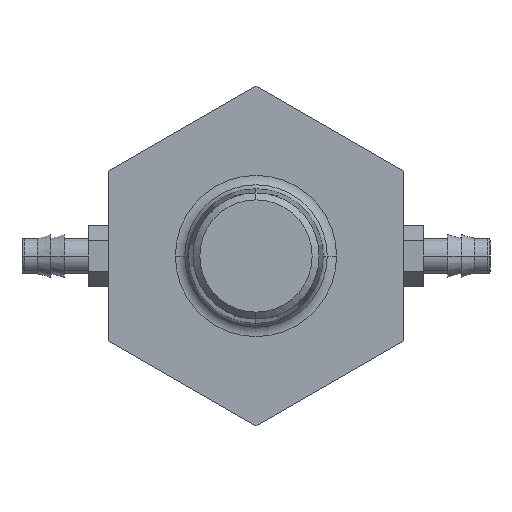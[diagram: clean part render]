
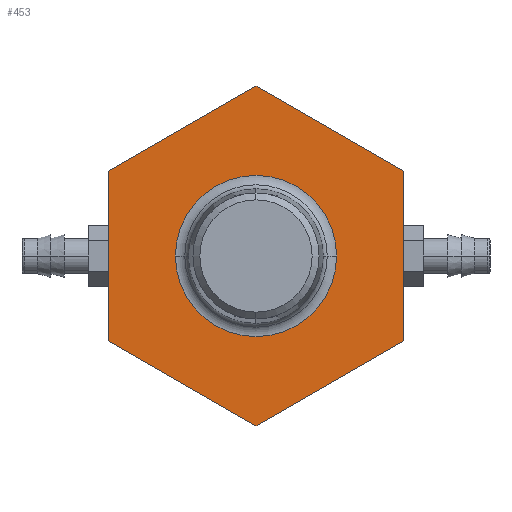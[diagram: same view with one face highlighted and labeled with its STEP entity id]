
A CAD part, left-side view. The second image highlights one B-rep face of the part: STEP entity #453.
In plain terms, the highlighted planar face has unit normal (-1, 0, 0).
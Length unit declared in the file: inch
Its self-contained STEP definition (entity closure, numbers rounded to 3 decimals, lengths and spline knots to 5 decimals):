
#203=DIRECTION('',(0.,0.866,-0.5));
#204=VECTOR('',#203,0.79386);
#205=CARTESIAN_POINT('',(-3.25,0.,0.79386));
#206=LINE('',#205,#204);
#207=DIRECTION('',(0.,0.866,0.5));
#208=VECTOR('',#207,0.79386);
#209=CARTESIAN_POINT('',(-3.25,-0.6875,0.39693));
#210=LINE('',#209,#208);
#211=DIRECTION('',(0.,0.,1.));
#212=VECTOR('',#211,0.79386);
#213=CARTESIAN_POINT('',(-3.25,-0.6875,-0.39693));
#214=LINE('',#213,#212);
#215=DIRECTION('',(0.,-0.866,0.5));
#216=VECTOR('',#215,0.79386);
#217=CARTESIAN_POINT('',(-3.25,0.,-0.79386));
#218=LINE('',#217,#216);
#219=DIRECTION('',(0.,-0.866,-0.5));
#220=VECTOR('',#219,0.79386);
#221=CARTESIAN_POINT('',(-3.25,0.6875,-0.39693));
#222=LINE('',#221,#220);
#223=DIRECTION('',(0.,0.,-1.));
#224=VECTOR('',#223,0.79386);
#225=CARTESIAN_POINT('',(-3.25,0.6875,0.39693));
#226=LINE('',#225,#224);
#227=CARTESIAN_POINT('',(-3.25,0.,0.));
#228=DIRECTION('',(1.,0.,0.));
#229=DIRECTION('',(0.,0.,1.));
#230=AXIS2_PLACEMENT_3D('',#227,#228,#229);
#232=CARTESIAN_POINT('',(-3.25,0.,0.));
#233=DIRECTION('',(1.,0.,0.));
#234=DIRECTION('',(0.,1.,0.));
#235=AXIS2_PLACEMENT_3D('',#232,#233,#234);
#237=CARTESIAN_POINT('',(-3.25,0.,0.));
#238=DIRECTION('',(1.,0.,0.));
#239=DIRECTION('',(0.,-1.,0.));
#240=AXIS2_PLACEMENT_3D('',#237,#238,#239);
#376=CARTESIAN_POINT('',(-3.25,0.,0.79386));
#377=CARTESIAN_POINT('',(-3.25,0.6875,0.39693));
#378=VERTEX_POINT('',#376);
#379=VERTEX_POINT('',#377);
#384=CARTESIAN_POINT('',(-3.25,0.6875,-0.39693));
#385=VERTEX_POINT('',#384);
#386=CARTESIAN_POINT('',(-3.25,-0.6875,0.39693));
#387=VERTEX_POINT('',#386);
#390=CARTESIAN_POINT('',(-3.25,0.,-0.79386));
#391=VERTEX_POINT('',#390);
#392=CARTESIAN_POINT('',(-3.25,-0.6875,-0.39693));
#393=VERTEX_POINT('',#392);
#408=CARTESIAN_POINT('',(-3.25,0.37658,0.));
#409=VERTEX_POINT('',#408);
#410=CARTESIAN_POINT('',(-3.25,-0.37658,0.));
#411=VERTEX_POINT('',#410);
#412=CARTESIAN_POINT('',(-3.25,0.,0.37658));
#413=VERTEX_POINT('',#412);
#426=CARTESIAN_POINT('',(-3.25,0.,0.));
#427=DIRECTION('',(-1.,0.,0.));
#428=DIRECTION('',(0.,0.,1.));
#429=AXIS2_PLACEMENT_3D('',#426,#427,#428);
#430=PLANE('',#429);
#432=ORIENTED_EDGE('',*,*,#431,.F.);
#434=ORIENTED_EDGE('',*,*,#433,.F.);
#436=ORIENTED_EDGE('',*,*,#435,.F.);
#438=ORIENTED_EDGE('',*,*,#437,.F.);
#440=ORIENTED_EDGE('',*,*,#439,.F.);
#442=ORIENTED_EDGE('',*,*,#441,.F.);
#443=EDGE_LOOP('',(#432,#434,#436,#438,#440,#442));
#444=FACE_OUTER_BOUND('',#443,.F.);
#446=ORIENTED_EDGE('',*,*,#445,.F.);
#448=ORIENTED_EDGE('',*,*,#447,.F.);
#450=ORIENTED_EDGE('',*,*,#449,.F.);
#451=EDGE_LOOP('',(#446,#448,#450));
#452=FACE_BOUND('',#451,.F.);
#231=CIRCLE('',#230,0.37658);
#236=CIRCLE('',#235,0.37658);
#241=CIRCLE('',#240,0.37658);
#431=EDGE_CURVE('',#378,#379,#206,.T.);
#433=EDGE_CURVE('',#387,#378,#210,.T.);
#435=EDGE_CURVE('',#393,#387,#214,.T.);
#437=EDGE_CURVE('',#391,#393,#218,.T.);
#439=EDGE_CURVE('',#385,#391,#222,.T.);
#441=EDGE_CURVE('',#379,#385,#226,.T.);
#445=EDGE_CURVE('',#413,#411,#231,.T.);
#447=EDGE_CURVE('',#409,#413,#236,.T.);
#449=EDGE_CURVE('',#411,#409,#241,.T.);
#453=ADVANCED_FACE('',(#444,#452),#430,.T.);
